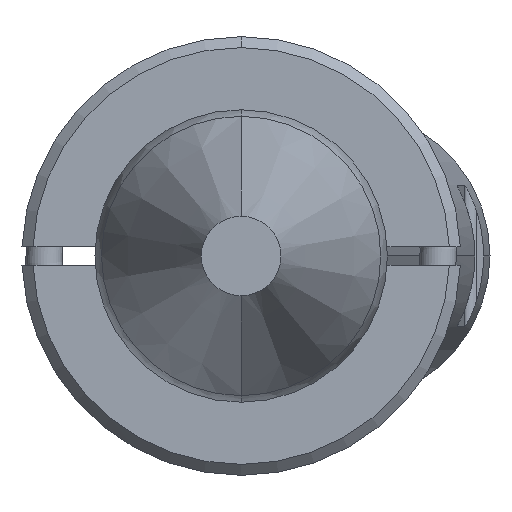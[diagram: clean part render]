
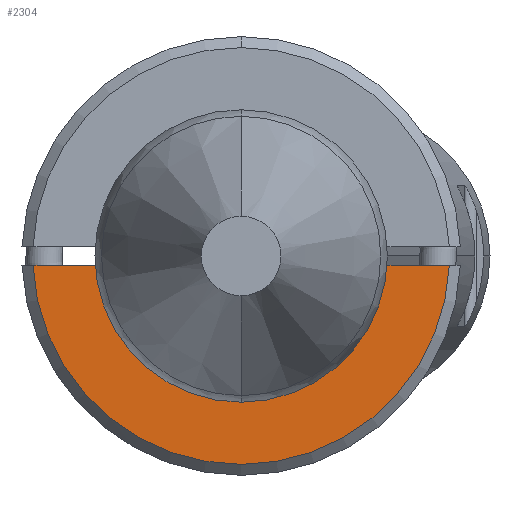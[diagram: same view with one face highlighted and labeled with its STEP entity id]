
A CAD part, front view. The second image highlights one B-rep face of the part: STEP entity #2304.
In plain terms, the highlighted planar face has unit normal (0, -1, 0).
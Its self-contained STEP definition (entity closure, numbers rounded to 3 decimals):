
#41 = CARTESIAN_POINT ( 'NONE',  ( -6., -6., -0.25 ) ) ;
#64 = CARTESIAN_POINT ( 'NONE',  ( -6., -6., -0.25 ) ) ;
#110 = CARTESIAN_POINT ( 'NONE',  ( -3.19, -6., -0.25 ) ) ;
#143 = CARTESIAN_POINT ( 'NONE',  ( 0., -6., 0. ) ) ;
#168 = EDGE_LOOP ( 'NONE', ( #2910, #3406, #1231, #749, #360 ) ) ;
#187 = EDGE_CURVE ( 'NONE', #750, #1149, #3820, .T. ) ;
#270 = CARTESIAN_POINT ( 'NONE',  ( 5.695, -6., -0.25 ) ) ;
#338 = DIRECTION ( 'NONE',  ( 0., 0., -1. ) ) ;
#360 = ORIENTED_EDGE ( 'NONE', *, *, #187, .T. ) ;
#414 = CARTESIAN_POINT ( 'NONE',  ( -5.695, -6., -0.25 ) ) ;
#448 = CARTESIAN_POINT ( 'NONE',  ( 0., -6., -3.2 ) ) ;
#574 = EDGE_CURVE ( 'NONE', #2818, #2619, #677, .T. ) ;
#677 = LINE ( 'NONE', #41, #2710 ) ;
#682 = EDGE_CURVE ( 'NONE', #1790, #2619, #2770, .T. ) ;
#693 = DIRECTION ( 'NONE',  ( 0., 0., -1. ) ) ;
#749 = ORIENTED_EDGE ( 'NONE', *, *, #3450, .T. ) ;
#750 = VERTEX_POINT ( 'NONE', #448 ) ;
#783 = DIRECTION ( 'NONE',  ( 0., -1., 0. ) ) ;
#787 = DIRECTION ( 'NONE',  ( 0., 0., -1. ) ) ;
#1015 = CARTESIAN_POINT ( 'NONE',  ( 3.19, -6., -0.25 ) ) ;
#1025 = DIRECTION ( 'NONE',  ( 1., 0., 0. ) ) ;
#1149 = VERTEX_POINT ( 'NONE', #110 ) ;
#1231 = ORIENTED_EDGE ( 'NONE', *, *, #574, .F. ) ;
#1316 = AXIS2_PLACEMENT_3D ( 'NONE', #2947, #3527, #693 ) ;
#1700 = AXIS2_PLACEMENT_3D ( 'NONE', #143, #3941, #787 ) ;
#1790 = VERTEX_POINT ( 'NONE', #414 ) ;
#1974 = LINE ( 'NONE', #64, #3774 ) ;
#2151 = EDGE_CURVE ( 'NONE', #1790, #1149, #1974, .T. ) ;
#2304 = ADVANCED_FACE ( 'NONE', ( #2811 ), #2531, .T. ) ;
#2512 = CARTESIAN_POINT ( 'NONE',  ( -6., -6., 0. ) ) ;
#2531 = PLANE ( 'NONE',  #3257 ) ;
#2619 = VERTEX_POINT ( 'NONE', #270 ) ;
#2710 = VECTOR ( 'NONE', #3204, 1000. ) ;
#2770 = CIRCLE ( 'NONE', #3428, 5.7 ) ;
#2811 = FACE_OUTER_BOUND ( 'NONE', #168, .T. ) ;
#2818 = VERTEX_POINT ( 'NONE', #1015 ) ;
#2910 = ORIENTED_EDGE ( 'NONE', *, *, #2151, .F. ) ;
#2947 = CARTESIAN_POINT ( 'NONE',  ( 0., -6., 0. ) ) ;
#3204 = DIRECTION ( 'NONE',  ( 1., 0., 0. ) ) ;
#3257 = AXIS2_PLACEMENT_3D ( 'NONE', #2512, #3764, #338 ) ;
#3406 = ORIENTED_EDGE ( 'NONE', *, *, #682, .T. ) ;
#3428 = AXIS2_PLACEMENT_3D ( 'NONE', #3914, #783, #3642 ) ;
#3450 = EDGE_CURVE ( 'NONE', #2818, #750, #3535, .T. ) ;
#3527 = DIRECTION ( 'NONE',  ( 0., 1., 0. ) ) ;
#3535 = CIRCLE ( 'NONE', #1316, 3.2 ) ;
#3642 = DIRECTION ( 'NONE',  ( 0., 0., -1. ) ) ;
#3764 = DIRECTION ( 'NONE',  ( 0., -1., 0. ) ) ;
#3774 = VECTOR ( 'NONE', #1025, 1000. ) ;
#3820 = CIRCLE ( 'NONE', #1700, 3.2 ) ;
#3914 = CARTESIAN_POINT ( 'NONE',  ( 0., -6., 0. ) ) ;
#3941 = DIRECTION ( 'NONE',  ( 0., 1., 0. ) ) ;
